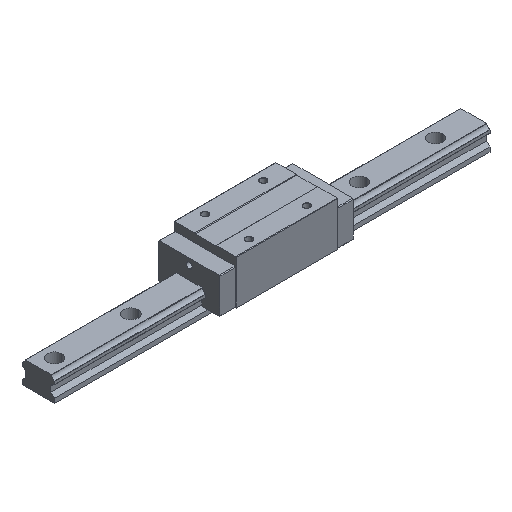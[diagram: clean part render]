
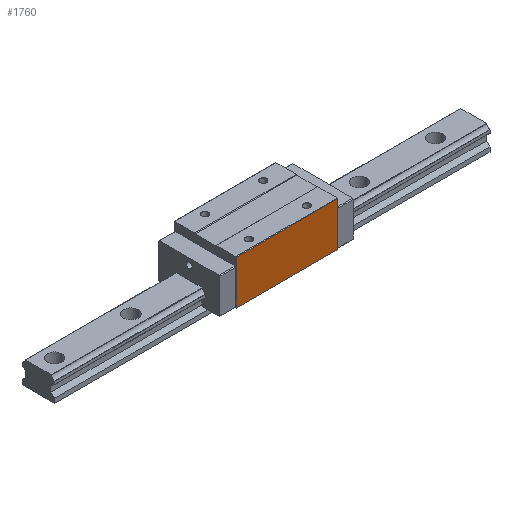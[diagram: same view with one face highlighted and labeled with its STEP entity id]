
A CAD part, isometric view. The second image highlights one B-rep face of the part: STEP entity #1760.
In plain terms, the highlighted planar face has unit normal (0, -1, 0).
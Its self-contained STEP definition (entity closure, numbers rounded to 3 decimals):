
#293 = CARTESIAN_POINT ( 'NONE',  ( 70., -42.5, 70. ) ) ;
#335 = LINE ( 'NONE', #1966, #4043 ) ;
#659 = EDGE_LOOP ( 'NONE', ( #3723, #4922, #3803, #2283 ) ) ;
#1128 = CARTESIAN_POINT ( 'NONE',  ( 70., -42.5, 69.5 ) ) ;
#1133 = VERTEX_POINT ( 'NONE', #1261 ) ;
#1148 = EDGE_CURVE ( 'NONE', #4827, #1133, #335, .T. ) ;
#1261 = CARTESIAN_POINT ( 'NONE',  ( 70., -42.5, 8.9 ) ) ;
#1409 = VECTOR ( 'NONE', #2692, 1000. ) ;
#1470 = CARTESIAN_POINT ( 'NONE',  ( -70., -42.5, 70. ) ) ;
#1659 = VECTOR ( 'NONE', #4758, 1000. ) ;
#1760 = ADVANCED_FACE ( 'NONE', ( #3104 ), #5233, .F. ) ;
#1948 = DIRECTION ( 'NONE',  ( -1., 0., 0. ) ) ;
#1966 = CARTESIAN_POINT ( 'NONE',  ( 70., -42.5, 70. ) ) ;
#2007 = CARTESIAN_POINT ( 'NONE',  ( -70., -42.5, 8.9 ) ) ;
#2283 = ORIENTED_EDGE ( 'NONE', *, *, #4323, .F. ) ;
#2692 = DIRECTION ( 'NONE',  ( 0., 0., -1. ) ) ;
#2717 = VERTEX_POINT ( 'NONE', #3635 ) ;
#2724 = DIRECTION ( 'NONE',  ( 1., 0., 0. ) ) ;
#3101 = LINE ( 'NONE', #3127, #1659 ) ;
#3104 = FACE_OUTER_BOUND ( 'NONE', #659, .T. ) ;
#3127 = CARTESIAN_POINT ( 'NONE',  ( 70., -42.5, 69.5 ) ) ;
#3130 = DIRECTION ( 'NONE',  ( 0., 1., 0. ) ) ;
#3187 = VERTEX_POINT ( 'NONE', #2007 ) ;
#3246 = LINE ( 'NONE', #5239, #4297 ) ;
#3477 = EDGE_CURVE ( 'NONE', #4827, #2717, #3101, .T. ) ;
#3568 = EDGE_CURVE ( 'NONE', #2717, #3187, #5129, .T. ) ;
#3620 = DIRECTION ( 'NONE',  ( 0., 0., -1. ) ) ;
#3635 = CARTESIAN_POINT ( 'NONE',  ( -70., -42.5, 69.5 ) ) ;
#3723 = ORIENTED_EDGE ( 'NONE', *, *, #1148, .F. ) ;
#3803 = ORIENTED_EDGE ( 'NONE', *, *, #3568, .T. ) ;
#4043 = VECTOR ( 'NONE', #3620, 1000. ) ;
#4297 = VECTOR ( 'NONE', #1948, 1000. ) ;
#4323 = EDGE_CURVE ( 'NONE', #1133, #3187, #3246, .T. ) ;
#4607 = AXIS2_PLACEMENT_3D ( 'NONE', #293, #3130, #2724 ) ;
#4758 = DIRECTION ( 'NONE',  ( -1., 0., 0. ) ) ;
#4827 = VERTEX_POINT ( 'NONE', #1128 ) ;
#4922 = ORIENTED_EDGE ( 'NONE', *, *, #3477, .T. ) ;
#5129 = LINE ( 'NONE', #1470, #1409 ) ;
#5233 = PLANE ( 'NONE',  #4607 ) ;
#5239 = CARTESIAN_POINT ( 'NONE',  ( 70., -42.5, 8.9 ) ) ;
